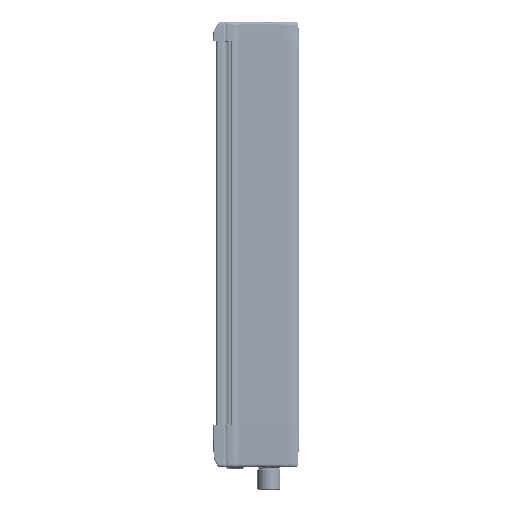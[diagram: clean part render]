
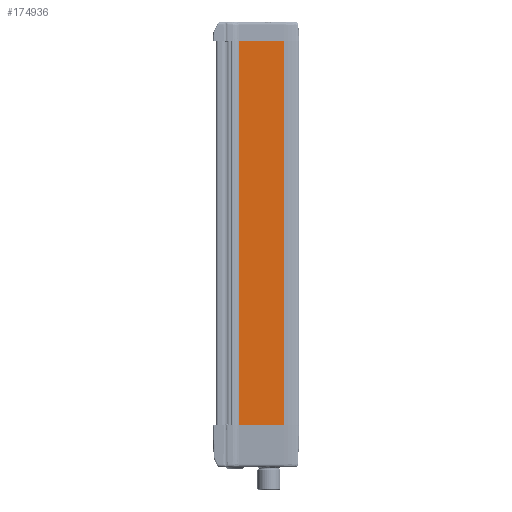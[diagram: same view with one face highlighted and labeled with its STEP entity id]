
A CAD part, left-side view. The second image highlights one B-rep face of the part: STEP entity #174936.
In plain terms, the highlighted planar face has unit normal (-1, 0, 0).
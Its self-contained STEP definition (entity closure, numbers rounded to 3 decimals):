
#913 = VERTEX_POINT ( 'NONE', #258081 ) ;
#7515 = VERTEX_POINT ( 'NONE', #240836 ) ;
#23633 = EDGE_CURVE ( 'NONE', #913, #173606, #284239, .T. ) ;
#34532 = CARTESIAN_POINT ( 'NONE',  ( -22.5, -14.5, 251. ) ) ;
#42279 = DIRECTION ( 'NONE',  ( 0., 0., -1. ) ) ;
#42589 = LINE ( 'NONE', #274833, #265126 ) ;
#47817 = VECTOR ( 'NONE', #42279, 1000. ) ;
#50075 = CARTESIAN_POINT ( 'NONE',  ( -22.5, -14.5, 0. ) ) ;
#72434 = PLANE ( 'NONE',  #141954 ) ;
#81201 = VERTEX_POINT ( 'NONE', #226822 ) ;
#84266 = VECTOR ( 'NONE', #257130, 1000. ) ;
#94895 = DIRECTION ( 'NONE',  ( 1., 0., 0. ) ) ;
#97661 = ORIENTED_EDGE ( 'NONE', *, *, #198809, .T. ) ;
#105718 = FACE_OUTER_BOUND ( 'NONE', #262794, .T. ) ;
#124484 = EDGE_CURVE ( 'NONE', #81201, #7515, #274129, .T. ) ;
#128075 = DIRECTION ( 'NONE',  ( 0., 0., -1. ) ) ;
#130990 = CARTESIAN_POINT ( 'NONE',  ( -22.5, -14.5, 0. ) ) ;
#141954 = AXIS2_PLACEMENT_3D ( 'NONE', #50075, #94895, #250227 ) ;
#143411 = LINE ( 'NONE', #34532, #84266 ) ;
#173606 = VERTEX_POINT ( 'NONE', #248600 ) ;
#174936 = ADVANCED_FACE ( 'NONE', ( #105718 ), #72434, .F. ) ;
#181234 = ORIENTED_EDGE ( 'NONE', *, *, #124484, .T. ) ;
#198809 = EDGE_CURVE ( 'NONE', #913, #81201, #143411, .T. ) ;
#201923 = ORIENTED_EDGE ( 'NONE', *, *, #23633, .F. ) ;
#209836 = DIRECTION ( 'NONE',  ( 0., 1., 0. ) ) ;
#215193 = VECTOR ( 'NONE', #128075, 1000. ) ;
#226822 = CARTESIAN_POINT ( 'NONE',  ( -22.5, 8.8, 251. ) ) ;
#240836 = CARTESIAN_POINT ( 'NONE',  ( -22.5, 8.8, 50. ) ) ;
#243433 = ORIENTED_EDGE ( 'NONE', *, *, #258346, .F. ) ;
#248600 = CARTESIAN_POINT ( 'NONE',  ( -22.5, -14.5, 50. ) ) ;
#250227 = DIRECTION ( 'NONE',  ( 0., 0., -1. ) ) ;
#257130 = DIRECTION ( 'NONE',  ( 0., 1., 0. ) ) ;
#258081 = CARTESIAN_POINT ( 'NONE',  ( -22.5, -14.5, 251. ) ) ;
#258346 = EDGE_CURVE ( 'NONE', #173606, #7515, #42589, .T. ) ;
#262794 = EDGE_LOOP ( 'NONE', ( #243433, #201923, #97661, #181234 ) ) ;
#265126 = VECTOR ( 'NONE', #209836, 1000. ) ;
#274129 = LINE ( 'NONE', #283229, #215193 ) ;
#274833 = CARTESIAN_POINT ( 'NONE',  ( -22.5, -14.5, 50. ) ) ;
#283229 = CARTESIAN_POINT ( 'NONE',  ( -22.5, 8.8, 0. ) ) ;
#284239 = LINE ( 'NONE', #130990, #47817 ) ;
